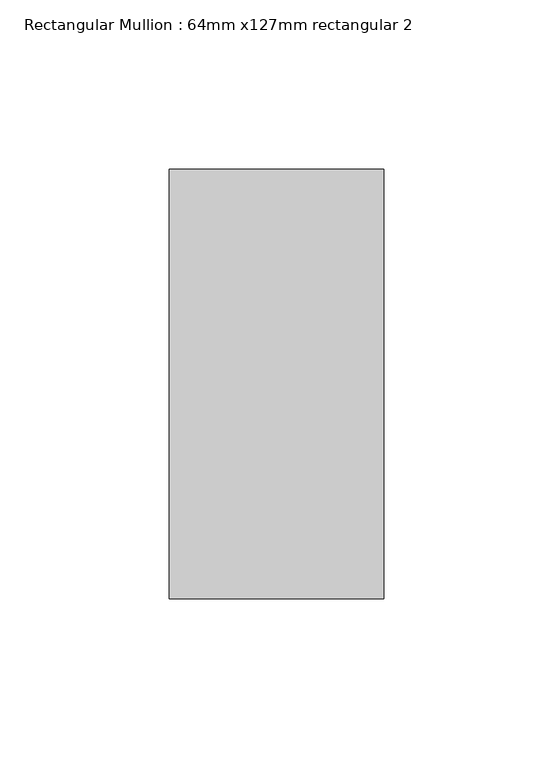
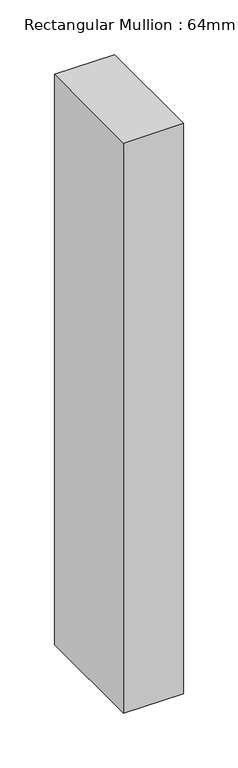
"""IFC4 building model written with IfcOpenShell, lengths in millimetres: member geometry, Rectangular Mullion : 64mm x127mm rectangular 2."""

from ifc_helpers import new_model, si_unit, frame, origin, place, context, project, spatial, polyline, outline, extrude, source, transform, mapped, element, save


def rectangular_mullion_64mm_x127mm_rectangular_2_d7e914e6(model_context):
    return source(origin(), model_context, "Body", "SweptSolid", [
        extrude(outline(polyline([(31.75, 63.5), (31.75, -63.5), (-31.75, -63.5), (-31.75, 63.5), (31.75, 63.5)])), frame((0.0, 0.0, -638.175), z_axis=(0.0, 0.0, 1.0), x_axis=(1.0, 0.0, 0.0)), (0.0, 0.0, 1.0), 638.175),
    ])


if __name__ == "__main__":
    model = new_model("IFC4")
    model_context = context("Model", 3, world=origin())
    ifc_project = project(units=[si_unit("LENGTHUNIT", "METRE", prefix="MILLI")], contexts=[model_context])
    site = spatial("IfcSite", under=ifc_project)
    building = spatial("IfcBuilding", under=site)
    placement = place(None, origin())
    rectangular_mullion_64mm_x127mm_rectangular_2_shape = rectangular_mullion_64mm_x127mm_rectangular_2_d7e914e6(model_context)
    element("IfcMember", 1, ObjectType="Rectangular Mullion : 64mm x127mm rectangular 2", at=placement, inside=building, context=model_context, shape_type="MappedRepresentation", body=[
        mapped(rectangular_mullion_64mm_x127mm_rectangular_2_shape, transform((0.0, 0.0, 0.0), x_axis=(1.0, 0.0, 0.0), y_axis=(0.0, 1.0, 0.0), z_axis=(0.0, 0.0, 1.0))),
    ])
    save(model, "model.ifc")
